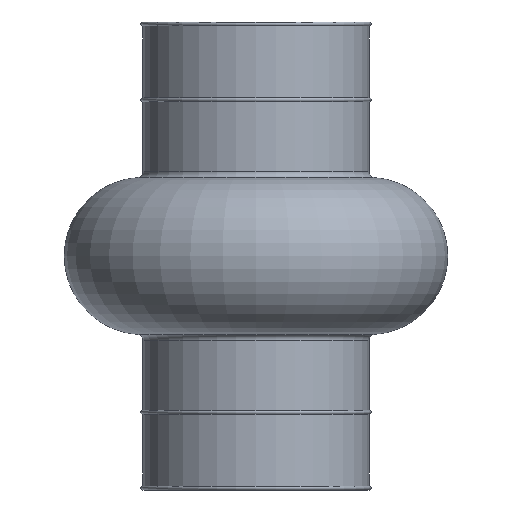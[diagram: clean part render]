
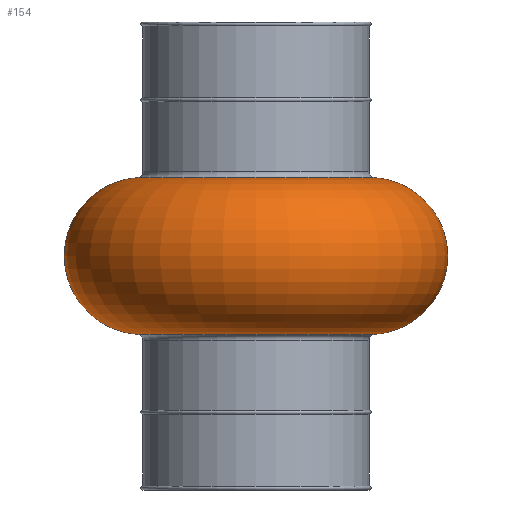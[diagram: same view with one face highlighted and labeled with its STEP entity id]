
A CAD part, left-side view. The second image highlights one B-rep face of the part: STEP entity #154.
In plain terms, the highlighted toroidal (fillet/blend) face has major radius 29.5 mm and minor radius 20.5 mm.
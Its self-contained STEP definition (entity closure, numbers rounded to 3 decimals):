
#5 = ORIENTED_EDGE ( 'NONE', *, *, #464, .T. ) ;
#12 = AXIS2_PLACEMENT_3D ( 'NONE', #439, #589, #186 ) ;
#15 = ORIENTED_EDGE ( 'NONE', *, *, #512, .T. ) ;
#22 = DIRECTION ( 'NONE',  ( 0., 1., 0. ) ) ;
#25 = CARTESIAN_POINT ( 'NONE',  ( 0., 29.5, 0. ) ) ;
#41 = AXIS2_PLACEMENT_3D ( 'NONE', #680, #816, #22 ) ;
#93 = AXIS2_PLACEMENT_3D ( 'NONE', #25, #342, #353 ) ;
#154 = ADVANCED_FACE ( 'NONE', ( #794 ), #819, .T. ) ;
#165 = CARTESIAN_POINT ( 'NONE',  ( 0., 0., -20.452 ) ) ;
#181 = CARTESIAN_POINT ( 'NONE',  ( 0., 30.898, 20.452 ) ) ;
#184 = EDGE_LOOP ( 'NONE', ( #852, #15, #514, #5 ) ) ;
#186 = DIRECTION ( 'NONE',  ( 0., 1., 0. ) ) ;
#199 = VERTEX_POINT ( 'NONE', #698 ) ;
#202 = EDGE_CURVE ( 'NONE', #562, #443, #453, .T. ) ;
#288 = CARTESIAN_POINT ( 'NONE',  ( 0., 0., 20.452 ) ) ;
#308 = AXIS2_PLACEMENT_3D ( 'NONE', #165, #360, #704 ) ;
#342 = DIRECTION ( 'NONE',  ( -1., 0., 0. ) ) ;
#345 = EDGE_CURVE ( 'NONE', #199, #349, #516, .T. ) ;
#349 = VERTEX_POINT ( 'NONE', #549 ) ;
#353 = DIRECTION ( 'NONE',  ( 0., 0., 1. ) ) ;
#356 = DIRECTION ( 'NONE',  ( 0., 1., 0. ) ) ;
#360 = DIRECTION ( 'NONE',  ( 0., 0., 1. ) ) ;
#415 = CIRCLE ( 'NONE', #308, 30.898 ) ;
#439 = CARTESIAN_POINT ( 'NONE',  ( 0., 0., 0. ) ) ;
#443 = VERTEX_POINT ( 'NONE', #478 ) ;
#453 = CIRCLE ( 'NONE', #93, 20.5 ) ;
#460 = AXIS2_PLACEMENT_3D ( 'NONE', #288, #771, #356 ) ;
#464 = EDGE_CURVE ( 'NONE', #443, #349, #415, .T. ) ;
#478 = CARTESIAN_POINT ( 'NONE',  ( 0., 30.898, -20.452 ) ) ;
#512 = EDGE_CURVE ( 'NONE', #199, #562, #627, .T. ) ;
#514 = ORIENTED_EDGE ( 'NONE', *, *, #202, .T. ) ;
#516 = CIRCLE ( 'NONE', #41, 20.5 ) ;
#549 = CARTESIAN_POINT ( 'NONE',  ( 0., -30.898, -20.452 ) ) ;
#562 = VERTEX_POINT ( 'NONE', #181 ) ;
#589 = DIRECTION ( 'NONE',  ( 0., 0., -1. ) ) ;
#627 = CIRCLE ( 'NONE', #460, 30.898 ) ;
#680 = CARTESIAN_POINT ( 'NONE',  ( 0., -29.5, 0. ) ) ;
#698 = CARTESIAN_POINT ( 'NONE',  ( 0., -30.898, 20.452 ) ) ;
#704 = DIRECTION ( 'NONE',  ( 0., -1., 0. ) ) ;
#771 = DIRECTION ( 'NONE',  ( 0., 0., -1. ) ) ;
#794 = FACE_OUTER_BOUND ( 'NONE', #184, .T. ) ;
#816 = DIRECTION ( 'NONE',  ( 1., 0., 0. ) ) ;
#819 = TOROIDAL_SURFACE ( 'NONE', #12, 29.5, 20.5 ) ;
#852 = ORIENTED_EDGE ( 'NONE', *, *, #345, .F. ) ;
